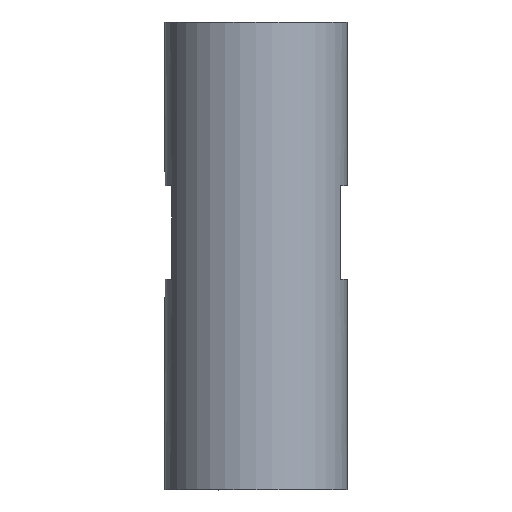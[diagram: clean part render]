
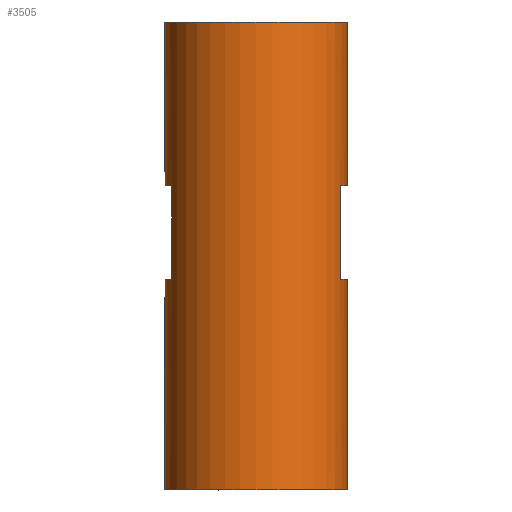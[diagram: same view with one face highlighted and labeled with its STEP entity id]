
A CAD part, front view. The second image highlights one B-rep face of the part: STEP entity #3505.
In plain terms, the highlighted cylindrical face has radius 39 mm (diameter 78 mm), a full revolution.
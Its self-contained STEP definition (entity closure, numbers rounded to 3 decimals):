
#2283=FACE_BOUND('',#5667,.T.);
#2284=FACE_BOUND('',#5668,.T.);
#2285=FACE_BOUND('',#5669,.T.);
#2286=FACE_BOUND('',#5670,.T.);
#2287=FACE_BOUND('',#5671,.T.);
#2430=CYLINDRICAL_SURFACE('',#17989,39.);
#2784=CIRCLE('',#17982,39.);
#2785=CIRCLE('',#17984,39.);
#2786=CIRCLE('',#17985,39.);
#2787=CIRCLE('',#17986,39.);
#2788=CIRCLE('',#17987,39.);
#2789=CIRCLE('',#17988,39.);
#3505=ADVANCED_FACE('',(#2283,#2284,#2285,#2286,#2287),#2430,.T.);
#5667=EDGE_LOOP('',(#10086));
#5668=EDGE_LOOP('',(#10087));
#5669=EDGE_LOOP('',(#10088,#10089,#10090,#10091));
#5670=EDGE_LOOP('',(#10092,#10093,#10094,#10095));
#5671=EDGE_LOOP('',(#10096,#10097,#10098,#10099));
#6486=B_SPLINE_CURVE_WITH_KNOTS('',3,(#35034,#35035,#35036,#35037,#35038,
#35039,#35040,#35041,#35042,#35043),.UNSPECIFIED.,.F.,.F.,(4,2,2,2,4),(0.,
0.25,0.5,0.75,1.),.UNSPECIFIED.);
#6539=B_SPLINE_CURVE_WITH_KNOTS('',3,(#37988,#37989,#37990,#37991,#37992,
#37993,#37994,#37995,#37996,#37997),.UNSPECIFIED.,.F.,.F.,(4,2,2,2,4),(0.,
0.25,0.5,0.75,1.),.UNSPECIFIED.);
#10086=ORIENTED_EDGE('',*,*,#14152,.T.);
#10087=ORIENTED_EDGE('',*,*,#14153,.T.);
#10088=ORIENTED_EDGE('',*,*,#14154,.F.);
#10089=ORIENTED_EDGE('',*,*,#14155,.T.);
#10090=ORIENTED_EDGE('',*,*,#14156,.F.);
#10091=ORIENTED_EDGE('',*,*,#14157,.T.);
#10092=ORIENTED_EDGE('',*,*,#14158,.T.);
#10093=ORIENTED_EDGE('',*,*,#14159,.F.);
#10094=ORIENTED_EDGE('',*,*,#14160,.T.);
#10095=ORIENTED_EDGE('',*,*,#14161,.F.);
#10096=ORIENTED_EDGE('',*,*,#14088,.F.);
#10097=ORIENTED_EDGE('',*,*,#14162,.F.);
#10098=ORIENTED_EDGE('',*,*,#14163,.T.);
#10099=ORIENTED_EDGE('',*,*,#14164,.F.);
#12059=VERTEX_POINT('',#35044);
#12060=VERTEX_POINT('',#35045);
#12103=VERTEX_POINT('',#37966);
#12104=VERTEX_POINT('',#37969);
#12105=VERTEX_POINT('',#37971);
#12106=VERTEX_POINT('',#37972);
#12107=VERTEX_POINT('',#37974);
#12108=VERTEX_POINT('',#37976);
#12109=VERTEX_POINT('',#37979);
#12110=VERTEX_POINT('',#37980);
#12111=VERTEX_POINT('',#37982);
#12112=VERTEX_POINT('',#37984);
#12113=VERTEX_POINT('',#37987);
#12114=VERTEX_POINT('',#37998);
#14088=EDGE_CURVE('',#12059,#12060,#6486,.T.);
#14152=EDGE_CURVE('',#12103,#12103,#2784,.T.);
#14153=EDGE_CURVE('',#12104,#12104,#2785,.T.);
#14154=EDGE_CURVE('',#12105,#12106,#15366,.T.);
#14155=EDGE_CURVE('',#12105,#12107,#2786,.T.);
#14156=EDGE_CURVE('',#12108,#12107,#15367,.T.);
#14157=EDGE_CURVE('',#12108,#12106,#2787,.T.);
#14158=EDGE_CURVE('',#12109,#12110,#2788,.T.);
#14159=EDGE_CURVE('',#12111,#12110,#15368,.T.);
#14160=EDGE_CURVE('',#12111,#12112,#2789,.T.);
#14161=EDGE_CURVE('',#12109,#12112,#15369,.T.);
#14162=EDGE_CURVE('',#12113,#12059,#15370,.T.);
#14163=EDGE_CURVE('',#12113,#12114,#6539,.T.);
#14164=EDGE_CURVE('',#12060,#12114,#15371,.T.);
#15366=LINE('',#37970,#16706);
#15367=LINE('',#37975,#16707);
#15368=LINE('',#37981,#16708);
#15369=LINE('',#37985,#16709);
#15370=LINE('',#37986,#16710);
#15371=LINE('',#37999,#16711);
#16706=VECTOR('',#20866,1.);
#16707=VECTOR('',#20869,1.);
#16708=VECTOR('',#20874,1.);
#16709=VECTOR('',#20877,1.);
#16710=VECTOR('',#20878,1.);
#16711=VECTOR('',#20879,1.);
#17982=AXIS2_PLACEMENT_3D('',#37965,#20860,#20861);
#17984=AXIS2_PLACEMENT_3D('',#37968,#20864,#20865);
#17985=AXIS2_PLACEMENT_3D('',#37973,#20867,#20868);
#17986=AXIS2_PLACEMENT_3D('',#37977,#20870,#20871);
#17987=AXIS2_PLACEMENT_3D('',#37978,#20872,#20873);
#17988=AXIS2_PLACEMENT_3D('',#37983,#20875,#20876);
#17989=AXIS2_PLACEMENT_3D('',#38000,#20880,#20881);
#20860=DIRECTION('',(0.,0.,1.));
#20861=DIRECTION('',(1.,0.,0.));
#20864=DIRECTION('',(0.,0.,-1.));
#20865=DIRECTION('',(1.,0.,0.));
#20866=DIRECTION('',(0.,0.,-1.));
#20867=DIRECTION('',(0.,0.,1.));
#20868=DIRECTION('',(-1.,0.,0.));
#20869=DIRECTION('',(0.,0.,1.));
#20870=DIRECTION('',(0.,0.,-1.));
#20871=DIRECTION('',(-0.923,-0.385,0.));
#20872=DIRECTION('',(0.,0.,1.));
#20873=DIRECTION('',(0.923,-0.385,0.));
#20874=DIRECTION('',(0.,0.,1.));
#20875=DIRECTION('',(0.,0.,-1.));
#20876=DIRECTION('',(1.,0.,0.));
#20877=DIRECTION('',(0.,0.,-1.));
#20878=DIRECTION('',(0.,0.,-1.));
#20879=DIRECTION('',(0.,0.,1.));
#20880=DIRECTION('',(0.,0.,-1.));
#20881=DIRECTION('',(-1.,0.,0.));
#35034=CARTESIAN_POINT('',(14.984,14.5,129.771));
#35035=CARTESIAN_POINT('',(13.133,15.272,127.672));
#35036=CARTESIAN_POINT('',(10.868,16.042,125.986));
#35037=CARTESIAN_POINT('',(5.745,17.161,123.642));
#35038=CARTESIAN_POINT('',(2.871,17.498,123.003));
#35039=CARTESIAN_POINT('',(-2.854,17.502,122.997));
#35040=CARTESIAN_POINT('',(-5.729,17.17,123.624));
#35041=CARTESIAN_POINT('',(-10.899,16.044,125.982));
#35042=CARTESIAN_POINT('',(-13.163,15.272,127.671));
#35043=CARTESIAN_POINT('',(-15.016,14.5,129.771));
#35044=CARTESIAN_POINT('',(14.984,14.5,129.771));
#35045=CARTESIAN_POINT('',(-15.016,14.5,129.771));
#37965=CARTESIAN_POINT('',(-0.016,-21.5,33.));
#37966=CARTESIAN_POINT('',(38.984,-21.5,33.));
#37968=CARTESIAN_POINT('',(-0.016,-21.5,233.));
#37969=CARTESIAN_POINT('',(38.984,-21.5,233.));
#37970=CARTESIAN_POINT('',(-36.016,-6.5,163.));
#37971=CARTESIAN_POINT('',(-36.016,-6.5,163.));
#37972=CARTESIAN_POINT('',(-36.016,-6.5,123.));
#37973=CARTESIAN_POINT('',(-0.016,-21.5,163.));
#37974=CARTESIAN_POINT('',(-36.016,-36.5,163.));
#37975=CARTESIAN_POINT('',(-36.016,-36.5,123.));
#37976=CARTESIAN_POINT('',(-36.016,-36.5,123.));
#37977=CARTESIAN_POINT('',(-0.016,-21.5,123.));
#37978=CARTESIAN_POINT('',(-0.016,-21.5,163.));
#37979=CARTESIAN_POINT('',(35.984,-36.5,163.));
#37980=CARTESIAN_POINT('',(35.984,-6.5,163.));
#37981=CARTESIAN_POINT('',(35.984,-6.5,123.));
#37982=CARTESIAN_POINT('',(35.984,-6.5,123.));
#37983=CARTESIAN_POINT('',(-0.016,-21.5,123.));
#37984=CARTESIAN_POINT('',(35.984,-36.5,123.));
#37985=CARTESIAN_POINT('',(35.984,-36.5,163.));
#37986=CARTESIAN_POINT('',(14.984,14.5,156.229));
#37987=CARTESIAN_POINT('',(14.984,14.5,156.229));
#37988=CARTESIAN_POINT('',(14.984,14.5,156.229));
#37989=CARTESIAN_POINT('',(13.133,15.272,158.328));
#37990=CARTESIAN_POINT('',(10.868,16.042,160.014));
#37991=CARTESIAN_POINT('',(5.745,17.161,162.358));
#37992=CARTESIAN_POINT('',(2.871,17.498,162.997));
#37993=CARTESIAN_POINT('',(-2.854,17.502,163.003));
#37994=CARTESIAN_POINT('',(-5.729,17.17,162.376));
#37995=CARTESIAN_POINT('',(-10.899,16.044,160.018));
#37996=CARTESIAN_POINT('',(-13.163,15.272,158.329));
#37997=CARTESIAN_POINT('',(-15.016,14.5,156.229));
#37998=CARTESIAN_POINT('',(-15.016,14.5,156.229));
#37999=CARTESIAN_POINT('',(-15.016,14.5,129.771));
#38000=CARTESIAN_POINT('',(-0.016,-21.5,243.));
